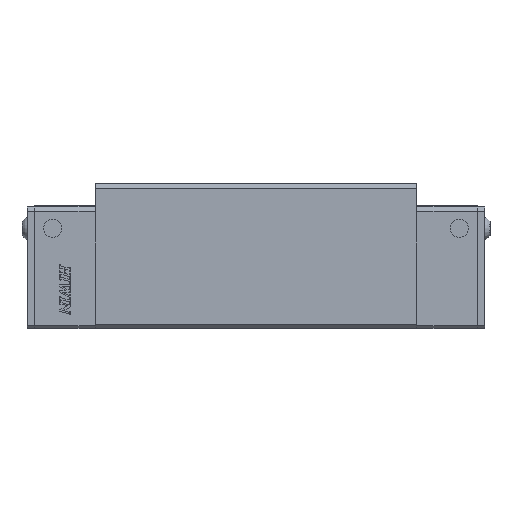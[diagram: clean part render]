
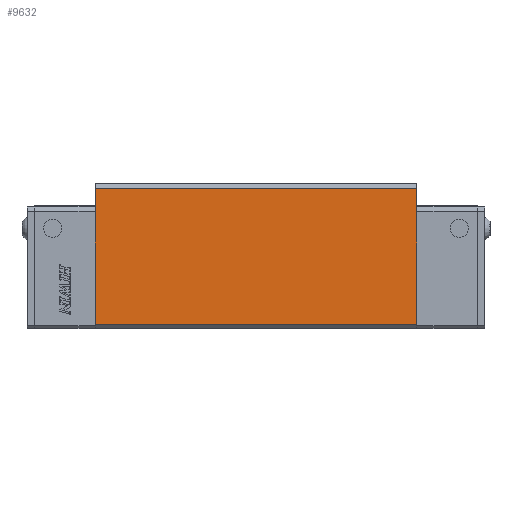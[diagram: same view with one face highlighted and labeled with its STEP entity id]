
A CAD part, top view. The second image highlights one B-rep face of the part: STEP entity #9632.
In plain terms, the highlighted planar face has unit normal (0, 0, 1) as drawn and (1, 0, 0) by its records, which use the part's own axes.
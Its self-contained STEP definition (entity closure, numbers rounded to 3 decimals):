
#729=LINE('',#14842,#1875);
#731=LINE('',#14847,#1877);
#777=LINE('',#14959,#1923);
#778=LINE('',#14960,#1924);
#1875=VECTOR('',#12035,45.2);
#1877=VECTOR('',#12039,106.5);
#1923=VECTOR('',#12161,106.5);
#1924=VECTOR('',#12162,45.2);
#2767=FACE_OUTER_BOUND('',#3288,.T.);
#3288=EDGE_LOOP('',(#7609,#7610,#7611,#7612));
#4253=VERTEX_POINT('',#14760);
#4293=VERTEX_POINT('',#14840);
#4295=VERTEX_POINT('',#14846);
#4323=VERTEX_POINT('',#14958);
#5448=EDGE_CURVE('',#4293,#4253,#729,.T.);
#5450=EDGE_CURVE('',#4253,#4295,#731,.T.);
#5506=EDGE_CURVE('',#4293,#4323,#777,.T.);
#5507=EDGE_CURVE('',#4295,#4323,#778,.T.);
#7609=ORIENTED_EDGE('',*,*,#5450,.F.);
#7610=ORIENTED_EDGE('',*,*,#5448,.F.);
#7611=ORIENTED_EDGE('',*,*,#5506,.T.);
#7612=ORIENTED_EDGE('',*,*,#5507,.F.);
#9183=PLANE('',#10375);
#9632=ADVANCED_FACE('',(#2767),#9183,.T.);
#10375=AXIS2_PLACEMENT_3D('',#14957,#12159,#12160);
#12035=DIRECTION('',(0.,-1.,0.));
#12039=DIRECTION('',(0.,0.,1.));
#12159=DIRECTION('center_axis',(1.,0.,0.));
#12160=DIRECTION('ref_axis',(0.,1.,0.));
#12161=DIRECTION('',(0.,0.,1.));
#12162=DIRECTION('',(0.,1.,0.));
#14760=CARTESIAN_POINT('',(35.,-26.2,-53.25));
#14840=CARTESIAN_POINT('',(35.,18.7,-53.25));
#14842=CARTESIAN_POINT('',(35.,8.5,-53.25));
#14846=CARTESIAN_POINT('',(35.,-26.2,53.25));
#14847=CARTESIAN_POINT('',(35.,-26.2,0.));
#14957=CARTESIAN_POINT('Origin',(35.,8.5,0.));
#14958=CARTESIAN_POINT('',(35.,18.7,53.25));
#14959=CARTESIAN_POINT('',(35.,18.7,0.));
#14960=CARTESIAN_POINT('',(35.,-26.5,53.25));
